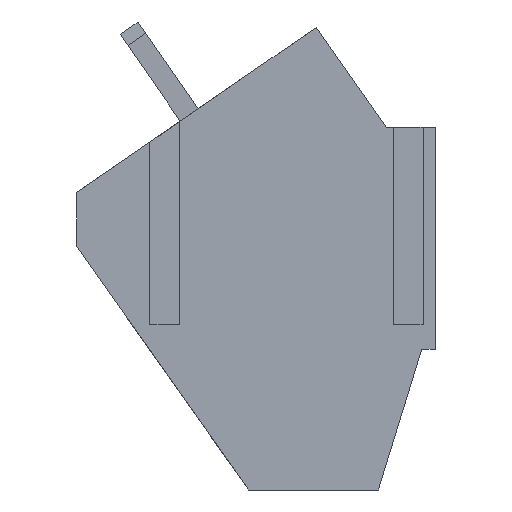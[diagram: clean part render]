
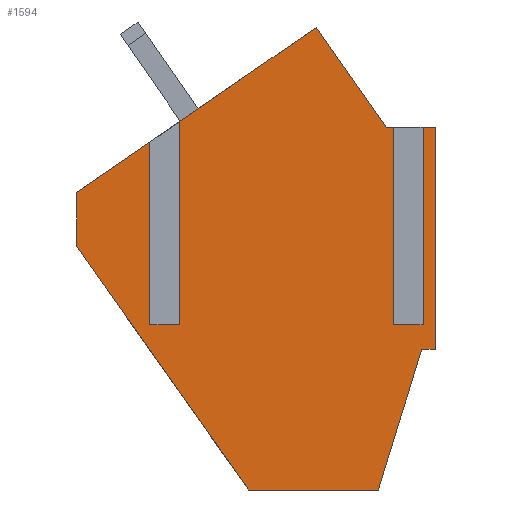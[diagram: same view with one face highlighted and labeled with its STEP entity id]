
A CAD part, left-side view. The second image highlights one B-rep face of the part: STEP entity #1594.
In plain terms, the highlighted planar face has unit normal (-1, 0, 0).
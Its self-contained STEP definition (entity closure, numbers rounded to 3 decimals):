
#8 = CARTESIAN_POINT ( 'NONE',  ( -7.5, -4., 5.2 ) ) ;
#111 = VERTEX_POINT ( 'NONE', #1171 ) ;
#193 = CARTESIAN_POINT ( 'NONE',  ( -7.5, 5.21, 13.436 ) ) ;
#220 = CARTESIAN_POINT ( 'NONE',  ( -7.5, 2.4, 0. ) ) ;
#288 = CARTESIAN_POINT ( 'NONE',  ( -7.5, 8.75, 9.002 ) ) ;
#318 = DIRECTION ( 'NONE',  ( 0., 0., -1. ) ) ;
#343 = LINE ( 'NONE', #3252, #4268 ) ;
#418 = EDGE_CURVE ( 'NONE', #1060, #1411, #2077, .T. ) ;
#427 = EDGE_CURVE ( 'NONE', #3881, #4201, #2412, .T. ) ;
#443 = ORIENTED_EDGE ( 'NONE', *, *, #4087, .F. ) ;
#452 = DIRECTION ( 'NONE',  ( 0., 1., 0. ) ) ;
#484 = DIRECTION ( 'NONE',  ( 0., 0., -1. ) ) ;
#509 = EDGE_LOOP ( 'NONE', ( #1431, #3550, #1523, #1839, #2069, #672, #2975, #2792, #443, #1719, #1154, #1826, #3494, #3666, #3250, #4539, #3782 ) ) ;
#587 = VERTEX_POINT ( 'NONE', #220 ) ;
#635 = CARTESIAN_POINT ( 'NONE',  ( -7.5, -3.79, 13.4 ) ) ;
#648 = VECTOR ( 'NONE', #1710, 1000. ) ;
#672 = ORIENTED_EDGE ( 'NONE', *, *, #2144, .T. ) ;
#677 = LINE ( 'NONE', #3791, #2355 ) ;
#740 = VECTOR ( 'NONE', #484, 1000. ) ;
#784 = LINE ( 'NONE', #1131, #2417 ) ;
#825 = EDGE_CURVE ( 'NONE', #3886, #4461, #1091, .T. ) ;
#835 = LINE ( 'NONE', #1520, #740 ) ;
#899 = PLANE ( 'NONE',  #1192 ) ;
#938 = EDGE_CURVE ( 'NONE', #3119, #4064, #1350, .T. ) ;
#946 = CARTESIAN_POINT ( 'NONE',  ( -7.5, -3.79, 13.4 ) ) ;
#972 = CARTESIAN_POINT ( 'NONE',  ( -7.5, -0.1, 17.099 ) ) ;
#1042 = EDGE_CURVE ( 'NONE', #2852, #3881, #2641, .T. ) ;
#1060 = VERTEX_POINT ( 'NONE', #4458 ) ;
#1091 = LINE ( 'NONE', #2130, #2668 ) ;
#1131 = CARTESIAN_POINT ( 'NONE',  ( -7.5, 5.79, 6.1 ) ) ;
#1152 = LINE ( 'NONE', #4277, #4323 ) ;
#1154 = ORIENTED_EDGE ( 'NONE', *, *, #2894, .F. ) ;
#1171 = CARTESIAN_POINT ( 'NONE',  ( -7.5, -3.21, 13.4 ) ) ;
#1192 = AXIS2_PLACEMENT_3D ( 'NONE', #4074, #2953, #4347 ) ;
#1306 = VERTEX_POINT ( 'NONE', #2280 ) ;
#1350 = LINE ( 'NONE', #288, #3157 ) ;
#1393 = VECTOR ( 'NONE', #1988, 1000. ) ;
#1397 = DIRECTION ( 'NONE',  ( 0., -1., 0. ) ) ;
#1411 = VERTEX_POINT ( 'NONE', #3582 ) ;
#1431 = ORIENTED_EDGE ( 'NONE', *, *, #2402, .F. ) ;
#1500 = DIRECTION ( 'NONE',  ( 0., 0., 1. ) ) ;
#1520 = CARTESIAN_POINT ( 'NONE',  ( -7.5, -3.21, 13.4 ) ) ;
#1523 = ORIENTED_EDGE ( 'NONE', *, *, #1042, .F. ) ;
#1524 = EDGE_CURVE ( 'NONE', #3601, #1306, #343, .T. ) ;
#1557 = VECTOR ( 'NONE', #3391, 1000. ) ;
#1594 = ADVANCED_FACE ( 'NONE', ( #2627 ), #899, .F. ) ;
#1664 = EDGE_CURVE ( 'NONE', #4303, #3538, #3442, .T. ) ;
#1710 = DIRECTION ( 'NONE',  ( 0., -0.823, 0.568 ) ) ;
#1719 = ORIENTED_EDGE ( 'NONE', *, *, #2991, .F. ) ;
#1727 = DIRECTION ( 'NONE',  ( 0., -0.575, -0.818 ) ) ;
#1764 = LINE ( 'NONE', #8, #4037 ) ;
#1826 = ORIENTED_EDGE ( 'NONE', *, *, #418, .F. ) ;
#1839 = ORIENTED_EDGE ( 'NONE', *, *, #2166, .F. ) ;
#1893 = CARTESIAN_POINT ( 'NONE',  ( -7.5, -2.7, 13.4 ) ) ;
#1988 = DIRECTION ( 'NONE',  ( 0., 0., -1. ) ) ;
#1995 = CARTESIAN_POINT ( 'NONE',  ( -7.5, 5.21, 6.1 ) ) ;
#2069 = ORIENTED_EDGE ( 'NONE', *, *, #825, .T. ) ;
#2077 = LINE ( 'NONE', #4473, #4278 ) ;
#2099 = CARTESIAN_POINT ( 'NONE',  ( -7.5, 8.75, 10.994 ) ) ;
#2130 = CARTESIAN_POINT ( 'NONE',  ( -7.5, 5.21, 6.1 ) ) ;
#2133 = CARTESIAN_POINT ( 'NONE',  ( -7.5, -2.4, 0. ) ) ;
#2144 = EDGE_CURVE ( 'NONE', #4461, #2482, #784, .T. ) ;
#2166 = EDGE_CURVE ( 'NONE', #3886, #2852, #1152, .T. ) ;
#2192 = CARTESIAN_POINT ( 'NONE',  ( -7.5, -3.79, 6.1 ) ) ;
#2275 = CARTESIAN_POINT ( 'NONE',  ( -7.5, -4.5, 13.4 ) ) ;
#2280 = CARTESIAN_POINT ( 'NONE',  ( -7.5, -3.21, 6.1 ) ) ;
#2305 = VECTOR ( 'NONE', #1727, 1000. ) ;
#2355 = VECTOR ( 'NONE', #318, 1000. ) ;
#2356 = CARTESIAN_POINT ( 'NONE',  ( -7.5, -0.1, 17.099 ) ) ;
#2402 = EDGE_CURVE ( 'NONE', #4201, #111, #2706, .T. ) ;
#2408 = CARTESIAN_POINT ( 'NONE',  ( -7.5, 5.79, 6.1 ) ) ;
#2412 = LINE ( 'NONE', #972, #2305 ) ;
#2417 = VECTOR ( 'NONE', #2929, 1000. ) ;
#2447 = EDGE_CURVE ( 'NONE', #4064, #2482, #2780, .T. ) ;
#2482 = VERTEX_POINT ( 'NONE', #3851 ) ;
#2494 = LINE ( 'NONE', #2275, #1393 ) ;
#2518 = DIRECTION ( 'NONE',  ( 0., 1., 0. ) ) ;
#2551 = CARTESIAN_POINT ( 'NONE',  ( -7.5, 8.75, 9.002 ) ) ;
#2627 = FACE_OUTER_BOUND ( 'NONE', #509, .T. ) ;
#2641 = LINE ( 'NONE', #193, #1557 ) ;
#2668 = VECTOR ( 'NONE', #3568, 1000. ) ;
#2706 = LINE ( 'NONE', #4215, #4170 ) ;
#2779 = CARTESIAN_POINT ( 'NONE',  ( -7.5, 2.4, 0. ) ) ;
#2780 = LINE ( 'NONE', #2099, #648 ) ;
#2792 = ORIENTED_EDGE ( 'NONE', *, *, #938, .F. ) ;
#2835 = EDGE_CURVE ( 'NONE', #4303, #3601, #677, .T. ) ;
#2852 = VERTEX_POINT ( 'NONE', #4173 ) ;
#2865 = LINE ( 'NONE', #2133, #3308 ) ;
#2894 = EDGE_CURVE ( 'NONE', #1411, #3359, #1764, .T. ) ;
#2929 = DIRECTION ( 'NONE',  ( 0., 0., 1. ) ) ;
#2930 = VECTOR ( 'NONE', #3850, 1000. ) ;
#2953 = DIRECTION ( 'NONE',  ( 1., 0., 0. ) ) ;
#2975 = ORIENTED_EDGE ( 'NONE', *, *, #2447, .F. ) ;
#2991 = EDGE_CURVE ( 'NONE', #3359, #587, #2865, .T. ) ;
#3100 = DIRECTION ( 'NONE',  ( 0., 0., 1. ) ) ;
#3108 = DIRECTION ( 'NONE',  ( 0., 0.294, -0.956 ) ) ;
#3119 = VERTEX_POINT ( 'NONE', #2551 ) ;
#3157 = VECTOR ( 'NONE', #3100, 1000. ) ;
#3250 = ORIENTED_EDGE ( 'NONE', *, *, #2835, .T. ) ;
#3252 = CARTESIAN_POINT ( 'NONE',  ( -7.5, -3.79, 6.1 ) ) ;
#3308 = VECTOR ( 'NONE', #452, 1000. ) ;
#3359 = VERTEX_POINT ( 'NONE', #3475 ) ;
#3391 = DIRECTION ( 'NONE',  ( 0., -0.823, 0.568 ) ) ;
#3433 = EDGE_CURVE ( 'NONE', #3538, #1060, #2494, .T. ) ;
#3442 = LINE ( 'NONE', #635, #4063 ) ;
#3475 = CARTESIAN_POINT ( 'NONE',  ( -7.5, -2.4, 0. ) ) ;
#3478 = DIRECTION ( 'NONE',  ( 0., -1., 0. ) ) ;
#3483 = CARTESIAN_POINT ( 'NONE',  ( -7.5, 8.75, 10.994 ) ) ;
#3494 = ORIENTED_EDGE ( 'NONE', *, *, #3433, .F. ) ;
#3538 = VERTEX_POINT ( 'NONE', #4094 ) ;
#3550 = ORIENTED_EDGE ( 'NONE', *, *, #427, .F. ) ;
#3568 = DIRECTION ( 'NONE',  ( 0., 1., 0. ) ) ;
#3582 = CARTESIAN_POINT ( 'NONE',  ( -7.5, -4., 5.2 ) ) ;
#3601 = VERTEX_POINT ( 'NONE', #2192 ) ;
#3666 = ORIENTED_EDGE ( 'NONE', *, *, #1664, .F. ) ;
#3781 = EDGE_CURVE ( 'NONE', #111, #1306, #835, .T. ) ;
#3782 = ORIENTED_EDGE ( 'NONE', *, *, #3781, .F. ) ;
#3791 = CARTESIAN_POINT ( 'NONE',  ( -7.5, -3.79, 13.4 ) ) ;
#3812 = LINE ( 'NONE', #2779, #2930 ) ;
#3850 = DIRECTION ( 'NONE',  ( 0., 0.576, 0.817 ) ) ;
#3851 = CARTESIAN_POINT ( 'NONE',  ( -7.5, 5.79, 13.036 ) ) ;
#3881 = VERTEX_POINT ( 'NONE', #2356 ) ;
#3886 = VERTEX_POINT ( 'NONE', #1995 ) ;
#4037 = VECTOR ( 'NONE', #3108, 1000. ) ;
#4063 = VECTOR ( 'NONE', #3478, 1000. ) ;
#4064 = VERTEX_POINT ( 'NONE', #3483 ) ;
#4074 = CARTESIAN_POINT ( 'NONE',  ( -7.5, 0., 0. ) ) ;
#4087 = EDGE_CURVE ( 'NONE', #587, #3119, #3812, .T. ) ;
#4094 = CARTESIAN_POINT ( 'NONE',  ( -7.5, -4.5, 13.4 ) ) ;
#4170 = VECTOR ( 'NONE', #1397, 1000. ) ;
#4173 = CARTESIAN_POINT ( 'NONE',  ( -7.5, 5.21, 13.436 ) ) ;
#4201 = VERTEX_POINT ( 'NONE', #1893 ) ;
#4215 = CARTESIAN_POINT ( 'NONE',  ( -7.5, -2.7, 13.4 ) ) ;
#4268 = VECTOR ( 'NONE', #2518, 1000. ) ;
#4277 = CARTESIAN_POINT ( 'NONE',  ( -7.5, 5.21, 6.1 ) ) ;
#4278 = VECTOR ( 'NONE', #4521, 1000. ) ;
#4303 = VERTEX_POINT ( 'NONE', #946 ) ;
#4323 = VECTOR ( 'NONE', #1500, 1000. ) ;
#4347 = DIRECTION ( 'NONE',  ( 0., 1., 0. ) ) ;
#4458 = CARTESIAN_POINT ( 'NONE',  ( -7.5, -4.5, 5.2 ) ) ;
#4461 = VERTEX_POINT ( 'NONE', #2408 ) ;
#4473 = CARTESIAN_POINT ( 'NONE',  ( -7.5, -4.5, 5.2 ) ) ;
#4521 = DIRECTION ( 'NONE',  ( 0., 1., 0. ) ) ;
#4539 = ORIENTED_EDGE ( 'NONE', *, *, #1524, .T. ) ;
